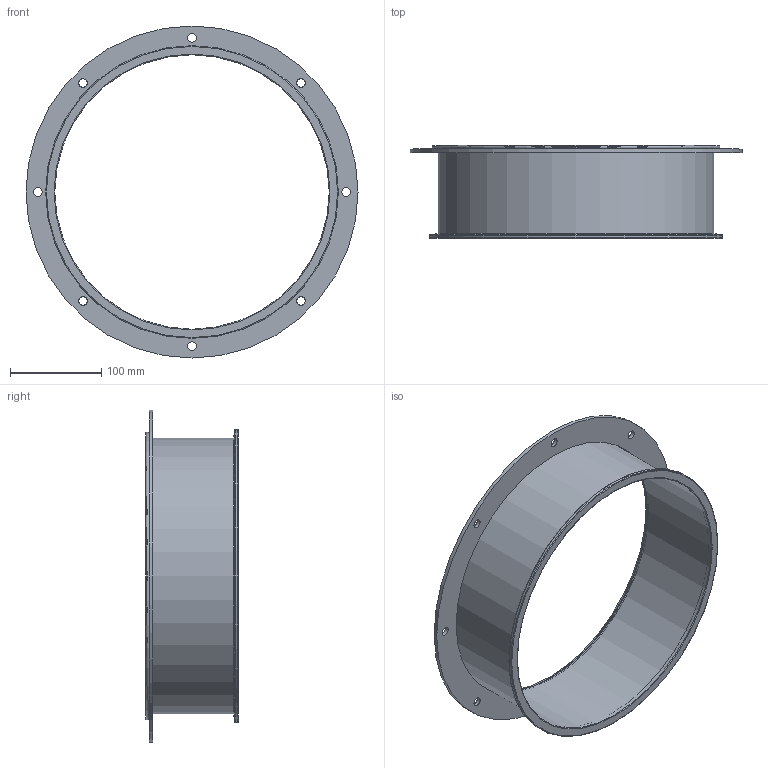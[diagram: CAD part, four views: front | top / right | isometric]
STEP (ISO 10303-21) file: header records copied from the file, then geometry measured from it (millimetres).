
FILE_DESCRIPTION(/* description */ (''),/* implementation_level */ '2;1');
FILE_NAME(/* name */ 'METU_Flachflanschadapter_Flansch_verzinkt_EA105-41B_300_L100.stp',/* time_stamp */ '2022-06-29T14:48:28+02:00',/* author */ (''),/* organization */ (''),/* preprocessor_version */ 'ST-DEVELOPER v11',/* originating_system */ 'SIEMENS UGS NX 6.0',/* authorisation */ '');
FILE_SCHEMA (('CONFIG_CONTROL_DESIGN'));
Length unit declared in the file: millimetre
Products named in the file (1): d.ga9D1087fk
Bounding box: 363 x 101.5 x 363 mm (x, y, z)
Volume: 263135.7 mm3; surface area: 316505.9 mm2
Topology: 3 solids, 3 shells, 32 faces, 76 edges, 53 vertices
Faces by surface type: cylinder 17, plane 9, torus 5, cone 1
Full cylindrical faces by diameter (mm): 9.5 x8, 300 x2, 301.6 x2, 303 x1, 311.6 x2, 320 x1, 363 x1
Entity records: 850 total; most frequent: DIRECTION 146, CARTESIAN_POINT 113, FACE_BOUND 80, EDGE_LOOP 80, ORIENTED_EDGE 80, AXIS2_PLACEMENT_3D 73, VERTEX_POINT 40, EDGE_CURVE 40
